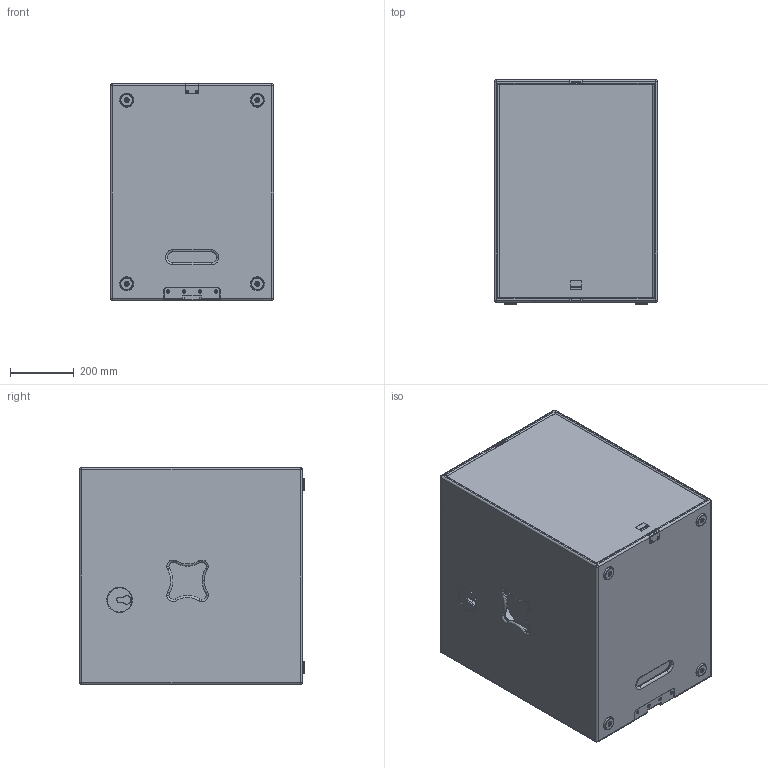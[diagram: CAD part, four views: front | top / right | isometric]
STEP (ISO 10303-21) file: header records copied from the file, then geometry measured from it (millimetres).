
FILE_DESCRIPTION (( 'STEP AP203' ), '1' );
FILE_NAME ('Seeburg_TSE6040.STEP', '2012-10-17T11:10:57', ( 'Fabian' ), ( '' ), 'SwSTEP 2.0', 'SolidWorks 2009', '' );
FILE_SCHEMA (( 'CONFIG_CONTROL_DESIGN' ));
Length unit declared in the file: millimetre
Products named in the file (2): TSE6040; Seeburg_TSE6040
Assembly tree (1 placements, depth 2):
  Seeburg_TSE6040
    TSE6040
Bounding box: 512 x 704 x 680 mm (x, y, z)
Volume: 35295901.9 mm3; surface area: 5065015.5 mm2
Topology: 22 solids, 22 shells, 949 faces, 2401 edges, 1514 vertices
Faces by surface type: cylinder 374, plane 291, torus 140, cone 132, sphere 12
Entity records: 32697 total; most frequent: CARTESIAN_POINT 9128, DIRECTION 5157, ORIENTED_EDGE 4770, EDGE_CURVE 2385, AXIS2_PLACEMENT_3D 2007, VERTEX_POINT 1506, LINE 1143, VECTOR 1143
